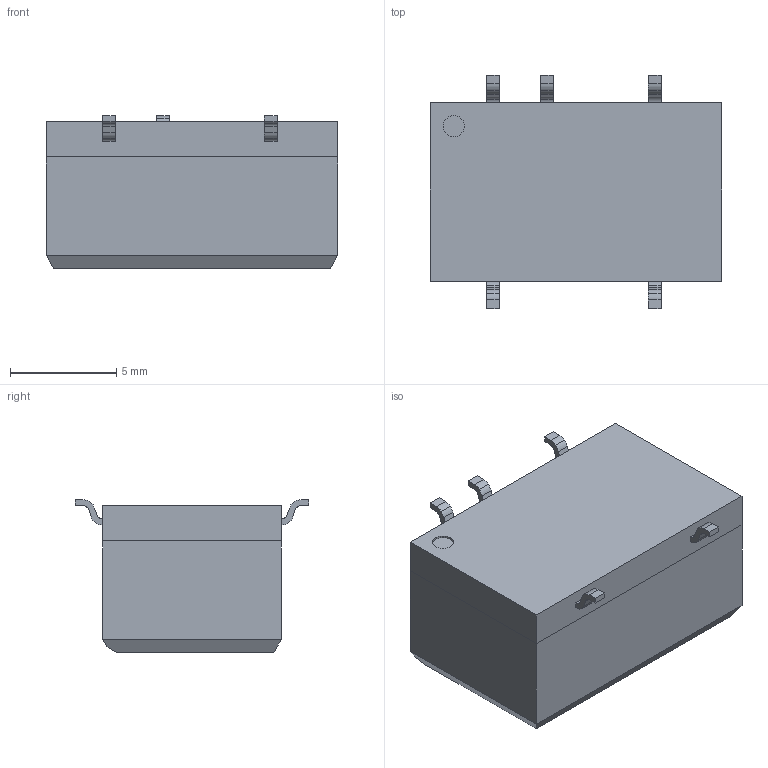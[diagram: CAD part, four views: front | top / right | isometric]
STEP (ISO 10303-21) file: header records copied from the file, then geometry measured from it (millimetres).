
FILE_DESCRIPTION (( 'STEP AP214' ), '1' );
FILE_NAME ('tes1-single_3d-drawing.STEP', '2024-07-19T18:58:44', ( '' ), ( '' ), 'SwSTEP 2.0', 'SolidWorks 2021', '' );
FILE_SCHEMA (( 'AUTOMOTIVE_DESIGN' ));
Length unit declared in the file: millimetre
Products named in the file (1): tes1-single_3d-drawing
Bounding box: 13.7 x 11 x 7.2 mm (x, y, z)
Volume: 539.3 mm3; surface area: 1010.6 mm2
Topology: 1 solids, 1 shells, 145 faces, 373 edges, 246 vertices
Faces by surface type: plane 102, cylinder 43
Entity records: 4423 total; most frequent: CARTESIAN_POINT 765, DIRECTION 751, ORIENTED_EDGE 746, EDGE_CURVE 373, LINE 287, VECTOR 287, VERTEX_POINT 246, AXIS2_PLACEMENT_3D 232
